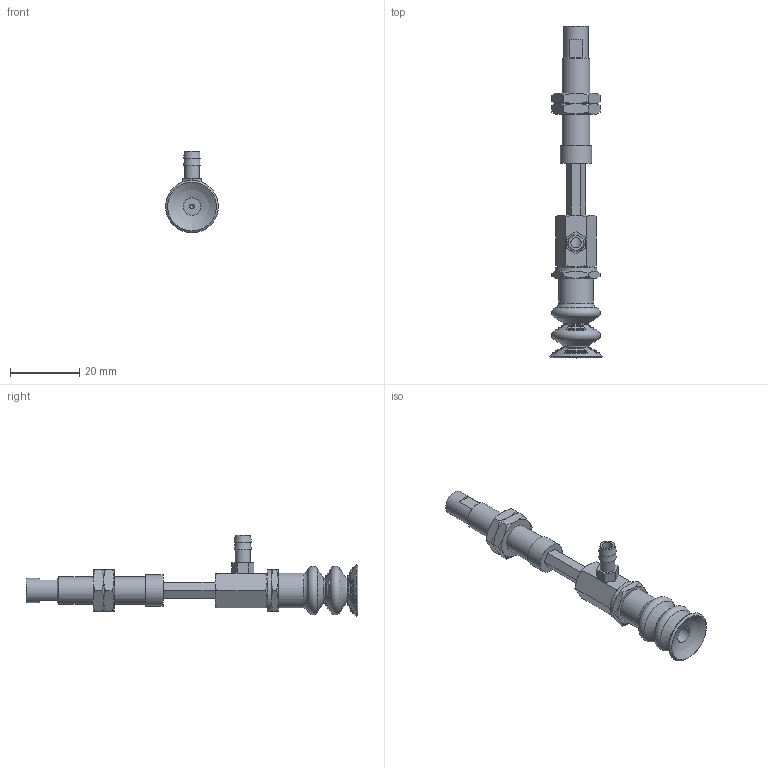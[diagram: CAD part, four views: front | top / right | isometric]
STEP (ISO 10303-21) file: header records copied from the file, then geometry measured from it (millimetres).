
FILE_DESCRIPTION(('STEP AP203'),'1');
FILE_NAME('-T.stp','2025-04-04T01:18:19',(' '),(' '),'Spatial InterOp 3D',' ',' ');
FILE_SCHEMA(('CONFIG_CONTROL_DESIGN'));
Length unit declared in the file: millimetre
Products named in the file (8): BNABPCYH-15-15-※-T; Adapter_napc-15-T; Connector_h-15-15; Nut napc_h-15-15; NAPCTH-15-15-FBODY; NAPCTH-15-15-MBODY; BPCG-15-※; T
Assembly tree (8 placements, depth 2):
  BNABPCYH-15-15-※-T
    Adapter_napc-15-T
    Connector_h-15-15
    Nut napc_h-15-15  x2
    NAPCTH-15-15-FBODY
    NAPCTH-15-15-MBODY
    BPCG-15-※
    T
Bounding box: 15.2 x 95.7 x 23.6 mm (x, y, z)
Volume: 6251.3 mm3; surface area: 6704.7 mm2
Topology: 8 solids, 8 shells, 265 faces, 764 edges, 492 vertices
Faces by surface type: plane 82, cone 71, sphere 58, torus 34, cylinder 20
Full cylindrical faces by diameter (mm): 1.25 x1, 3 x1, 4.134 x3, 4.3 x1, 5 x7, 7 x1, 7.188 x2, 8 x1, 9 x1, 10 x1, 12 x1
Entity records: 7581 total; most frequent: CARTESIAN_POINT 2063, DIRECTION 1106, ORIENTED_EDGE 952, AXIS2_PLACEMENT_3D 503, EDGE_CURVE 476, EDGE_LOOP 340, VERTEX_POINT 335, FACE_OUTER_BOUND 269
